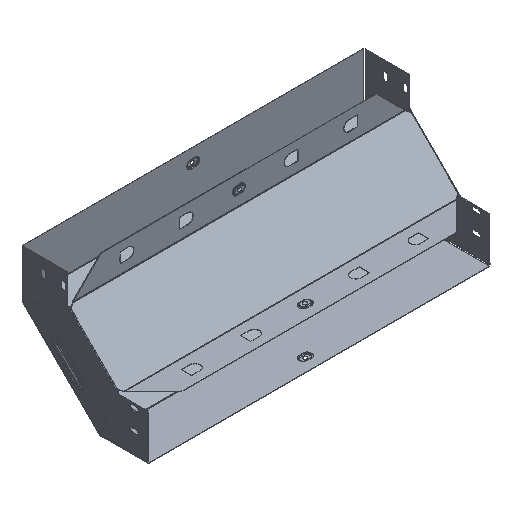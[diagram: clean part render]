
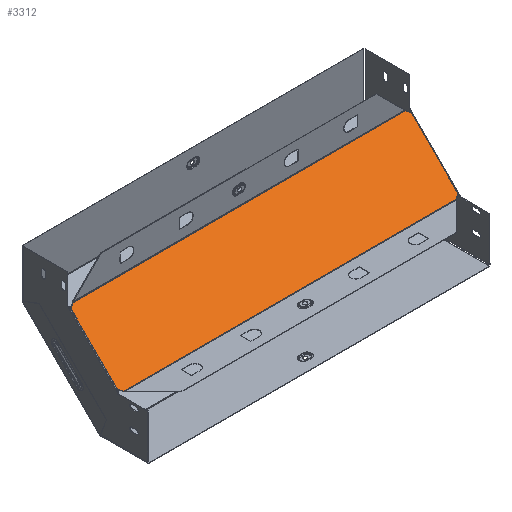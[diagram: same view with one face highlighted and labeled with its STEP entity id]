
A CAD part, isometric view. The second image highlights one B-rep face of the part: STEP entity #3312.
In plain terms, the highlighted planar face has unit normal (0, -0.707, 0.707).
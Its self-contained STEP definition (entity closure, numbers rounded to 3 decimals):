
#7 = DIRECTION ( 'NONE',  ( -1., 0., 0. ) ) ;
#159 = EDGE_CURVE ( 'NONE', #4005, #2675, #5373, .T. ) ;
#356 = VECTOR ( 'NONE', #8187, 1000. ) ;
#358 = LINE ( 'NONE', #7151, #3307 ) ;
#402 = VECTOR ( 'NONE', #9092, 1000. ) ;
#581 = ORIENTED_EDGE ( 'NONE', *, *, #6860, .T. ) ;
#767 = VECTOR ( 'NONE', #3966, 1000. ) ;
#1044 = LINE ( 'NONE', #7439, #356 ) ;
#1047 = CARTESIAN_POINT ( 'NONE',  ( 241.546, -55.512, -105.512 ) ) ;
#1130 = VERTEX_POINT ( 'NONE', #4597 ) ;
#1189 = ORIENTED_EDGE ( 'NONE', *, *, #4973, .T. ) ;
#1221 = ORIENTED_EDGE ( 'NONE', *, *, #6977, .T. ) ;
#1228 = LINE ( 'NONE', #1047, #767 ) ;
#1285 = DIRECTION ( 'NONE',  ( -0.707, 0.5, 0.5 ) ) ;
#1289 = VERTEX_POINT ( 'NONE', #2833 ) ;
#1363 = DIRECTION ( 'NONE',  ( -0.707, -0.5, -0.5 ) ) ;
#1386 = CARTESIAN_POINT ( 'NONE',  ( -300.299, -19.208, -69.208 ) ) ;
#1591 = LINE ( 'NONE', #6497, #7890 ) ;
#1751 = LINE ( 'NONE', #7122, #8598 ) ;
#2002 = DIRECTION ( 'NONE',  ( 0.707, -0.5, -0.5 ) ) ;
#2046 = CARTESIAN_POINT ( 'NONE',  ( -298.2, 70., 20. ) ) ;
#2061 = ORIENTED_EDGE ( 'NONE', *, *, #2326, .T. ) ;
#2326 = EDGE_CURVE ( 'NONE', #6515, #3132, #1751, .T. ) ;
#2519 = CARTESIAN_POINT ( 'NONE',  ( -296.592, -16.588, -66.588 ) ) ;
#2616 = ORIENTED_EDGE ( 'NONE', *, *, #3471, .F. ) ;
#2621 = VERTEX_POINT ( 'NONE', #5903 ) ;
#2675 = VERTEX_POINT ( 'NONE', #2519 ) ;
#2705 = VECTOR ( 'NONE', #8551, 1000. ) ;
#2833 = CARTESIAN_POINT ( 'NONE',  ( 292.181, 69.707, 19.707 ) ) ;
#3083 = VECTOR ( 'NONE', #1285, 1000. ) ;
#3132 = VERTEX_POINT ( 'NONE', #8985 ) ;
#3233 = VECTOR ( 'NONE', #6693, 1000. ) ;
#3307 = VECTOR ( 'NONE', #1363, 1000. ) ;
#3312 = ADVANCED_FACE ( 'NONE', ( #7346 ), #7791, .F. ) ;
#3373 = LINE ( 'NONE', #9068, #6279 ) ;
#3471 = EDGE_CURVE ( 'NONE', #7035, #3595, #1044, .T. ) ;
#3595 = VERTEX_POINT ( 'NONE', #7618 ) ;
#3795 = CARTESIAN_POINT ( 'NONE',  ( 300.299, -19.208, -69.208 ) ) ;
#3966 = DIRECTION ( 'NONE',  ( 0.707, 0.5, 0.5 ) ) ;
#4005 = VERTEX_POINT ( 'NONE', #6566 ) ;
#4011 = LINE ( 'NONE', #4062, #402 ) ;
#4062 = CARTESIAN_POINT ( 'NONE',  ( 241.546, 105.512, 55.512 ) ) ;
#4144 = CARTESIAN_POINT ( 'NONE',  ( -300.299, 69.208, 19.208 ) ) ;
#4218 = VECTOR ( 'NONE', #9258, 1000. ) ;
#4275 = EDGE_CURVE ( 'NONE', #1289, #6515, #1591, .T. ) ;
#4597 = CARTESIAN_POINT ( 'NONE',  ( 298.2, 67.724, 17.724 ) ) ;
#4700 = ORIENTED_EDGE ( 'NONE', *, *, #6674, .F. ) ;
#4843 = VECTOR ( 'NONE', #8499, 1000. ) ;
#4973 = EDGE_CURVE ( 'NONE', #7035, #5419, #1228, .T. ) ;
#5032 = EDGE_CURVE ( 'NONE', #2675, #3595, #3373, .T. ) ;
#5310 = CARTESIAN_POINT ( 'NONE',  ( 296.592, -16.588, -66.588 ) ) ;
#5346 = LINE ( 'NONE', #3795, #3233 ) ;
#5350 = ORIENTED_EDGE ( 'NONE', *, *, #5032, .T. ) ;
#5360 = VERTEX_POINT ( 'NONE', #7460 ) ;
#5373 = LINE ( 'NONE', #1386, #2705 ) ;
#5419 = VERTEX_POINT ( 'NONE', #5310 ) ;
#5544 = LINE ( 'NONE', #4144, #3083 ) ;
#5617 = DIRECTION ( 'NONE',  ( -0.707, -0.5, -0.5 ) ) ;
#5709 = DIRECTION ( 'NONE',  ( 0., 0.707, 0.707 ) ) ;
#5735 = DIRECTION ( 'NONE',  ( 0., 0.707, -0.707 ) ) ;
#5782 = CARTESIAN_POINT ( 'NONE',  ( 292.181, -19.707, -69.707 ) ) ;
#5796 = CARTESIAN_POINT ( 'NONE',  ( 298.2, 70., 20. ) ) ;
#5903 = CARTESIAN_POINT ( 'NONE',  ( 296.592, 66.588, 16.588 ) ) ;
#6121 = CARTESIAN_POINT ( 'NONE',  ( -292.181, 69.707, 19.707 ) ) ;
#6167 = ORIENTED_EDGE ( 'NONE', *, *, #9264, .T. ) ;
#6234 = ORIENTED_EDGE ( 'NONE', *, *, #8052, .T. ) ;
#6279 = VECTOR ( 'NONE', #2002, 1000. ) ;
#6442 = AXIS2_PLACEMENT_3D ( 'NONE', #8621, #5735, #5709 ) ;
#6497 = CARTESIAN_POINT ( 'NONE',  ( 298.2, 69.707, 19.707 ) ) ;
#6515 = VERTEX_POINT ( 'NONE', #6121 ) ;
#6566 = CARTESIAN_POINT ( 'NONE',  ( -298.2, -17.724, -67.724 ) ) ;
#6619 = ORIENTED_EDGE ( 'NONE', *, *, #7821, .T. ) ;
#6674 = EDGE_CURVE ( 'NONE', #1130, #6813, #8276, .T. ) ;
#6693 = DIRECTION ( 'NONE',  ( 0.707, -0.5, -0.5 ) ) ;
#6813 = VERTEX_POINT ( 'NONE', #8965 ) ;
#6860 = EDGE_CURVE ( 'NONE', #5419, #6813, #5346, .T. ) ;
#6977 = EDGE_CURVE ( 'NONE', #2621, #1289, #4011, .T. ) ;
#7035 = VERTEX_POINT ( 'NONE', #5782 ) ;
#7122 = CARTESIAN_POINT ( 'NONE',  ( -241.546, 105.512, 55.512 ) ) ;
#7151 = CARTESIAN_POINT ( 'NONE',  ( 300.299, 69.208, 19.208 ) ) ;
#7328 = LINE ( 'NONE', #2046, #4843 ) ;
#7346 = FACE_OUTER_BOUND ( 'NONE', #8730, .T. ) ;
#7439 = CARTESIAN_POINT ( 'NONE',  ( 298.2, -19.707, -69.707 ) ) ;
#7460 = CARTESIAN_POINT ( 'NONE',  ( -298.2, 67.724, 17.724 ) ) ;
#7618 = CARTESIAN_POINT ( 'NONE',  ( -292.181, -19.707, -69.707 ) ) ;
#7791 = PLANE ( 'NONE',  #6442 ) ;
#7821 = EDGE_CURVE ( 'NONE', #1130, #2621, #358, .T. ) ;
#7890 = VECTOR ( 'NONE', #7, 1000. ) ;
#8052 = EDGE_CURVE ( 'NONE', #3132, #5360, #5544, .T. ) ;
#8187 = DIRECTION ( 'NONE',  ( -1., 0., 0. ) ) ;
#8276 = LINE ( 'NONE', #5796, #4218 ) ;
#8346 = ORIENTED_EDGE ( 'NONE', *, *, #159, .T. ) ;
#8499 = DIRECTION ( 'NONE',  ( 0., -0.707, -0.707 ) ) ;
#8551 = DIRECTION ( 'NONE',  ( 0.707, 0.5, 0.5 ) ) ;
#8598 = VECTOR ( 'NONE', #5617, 1000. ) ;
#8621 = CARTESIAN_POINT ( 'NONE',  ( 298.2, 70., 20. ) ) ;
#8730 = EDGE_LOOP ( 'NONE', ( #6619, #1221, #9110, #2061, #6234, #6167, #8346, #5350, #2616, #1189, #581, #4700 ) ) ;
#8965 = CARTESIAN_POINT ( 'NONE',  ( 298.2, -17.724, -67.724 ) ) ;
#8985 = CARTESIAN_POINT ( 'NONE',  ( -296.592, 66.588, 16.588 ) ) ;
#9068 = CARTESIAN_POINT ( 'NONE',  ( -241.546, -55.512, -105.512 ) ) ;
#9092 = DIRECTION ( 'NONE',  ( -0.707, 0.5, 0.5 ) ) ;
#9110 = ORIENTED_EDGE ( 'NONE', *, *, #4275, .T. ) ;
#9258 = DIRECTION ( 'NONE',  ( 0., -0.707, -0.707 ) ) ;
#9264 = EDGE_CURVE ( 'NONE', #5360, #4005, #7328, .T. ) ;
